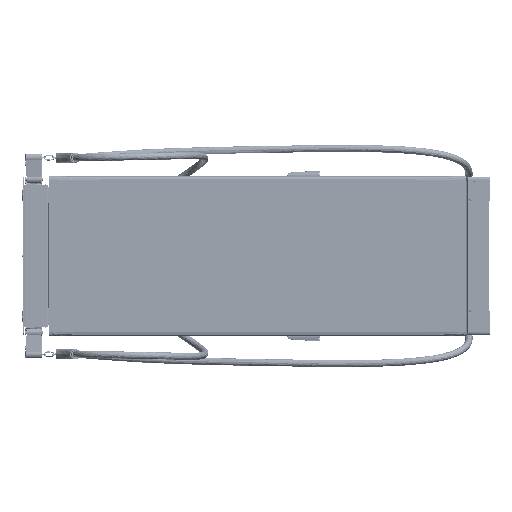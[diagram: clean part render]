
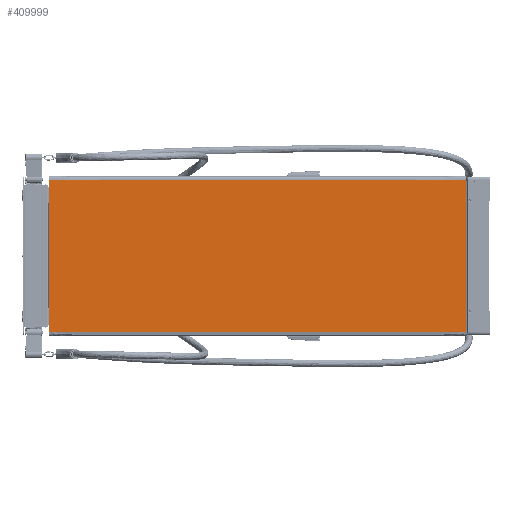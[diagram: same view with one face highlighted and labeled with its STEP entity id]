
A CAD part, left-side view. The second image highlights one B-rep face of the part: STEP entity #409999.
In plain terms, the highlighted planar face has unit normal (-1, 0, 0).
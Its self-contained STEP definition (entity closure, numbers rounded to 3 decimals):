
#406125=DIRECTION('',(0.,0.,-1.));
#406126=VECTOR('',#406125,2.);
#406127=CARTESIAN_POINT('',(-391.5,111.8,369.5));
#406128=LINE('',#406127,#406126);
#406132=DIRECTION('',(0.,0.,1.));
#406133=VECTOR('',#406132,2.);
#406134=CARTESIAN_POINT('',(-391.5,111.8,-369.5));
#406135=LINE('',#406134,#406133);
#406139=DIRECTION('',(0.,1.,0.));
#406140=VECTOR('',#406139,2036.4);
#406141=CARTESIAN_POINT('',(-391.5,111.8,-369.5));
#406142=LINE('',#406141,#406140);
#406146=DIRECTION('',(0.,0.,1.));
#406147=VECTOR('',#406146,2.);
#406148=CARTESIAN_POINT('',(-391.5,2148.2,-369.5));
#406149=LINE('',#406148,#406147);
#406153=DIRECTION('',(0.,0.,-1.));
#406154=VECTOR('',#406153,2.);
#406155=CARTESIAN_POINT('',(-391.5,2148.2,369.5));
#406156=LINE('',#406155,#406154);
#406174=DIRECTION('',(0.,1.,0.));
#406175=VECTOR('',#406174,2036.4);
#406176=CARTESIAN_POINT('',(-391.5,111.8,369.5));
#406177=LINE('',#406176,#406175);
#406237=DIRECTION('',(0.,0.,1.));
#406238=VECTOR('',#406237,735.);
#406239=CARTESIAN_POINT('',(-391.5,2148.2,-367.5));
#406240=LINE('',#406239,#406238);
#406328=DIRECTION('',(0.,0.,-1.));
#406329=VECTOR('',#406328,735.);
#406330=CARTESIAN_POINT('',(-391.5,111.8,367.5));
#406331=LINE('',#406330,#406329);
#409445=CARTESIAN_POINT('',(-391.5,2148.2,369.5));
#409446=CARTESIAN_POINT('',(-391.5,2148.2,367.5));
#409447=VERTEX_POINT('',#409445);
#409448=VERTEX_POINT('',#409446);
#409453=CARTESIAN_POINT('',(-391.5,2148.2,-369.5));
#409454=CARTESIAN_POINT('',(-391.5,2148.2,-367.5));
#409455=VERTEX_POINT('',#409453);
#409456=VERTEX_POINT('',#409454);
#409469=CARTESIAN_POINT('',(-391.5,111.8,-369.5));
#409470=CARTESIAN_POINT('',(-391.5,111.8,-367.5));
#409471=VERTEX_POINT('',#409469);
#409472=VERTEX_POINT('',#409470);
#409477=CARTESIAN_POINT('',(-391.5,111.8,369.5));
#409478=CARTESIAN_POINT('',(-391.5,111.8,367.5));
#409479=VERTEX_POINT('',#409477);
#409480=VERTEX_POINT('',#409478);
#409976=CARTESIAN_POINT('',(-391.5,110.,-369.5));
#409977=DIRECTION('',(-1.,0.,0.));
#409978=DIRECTION('',(0.,0.,1.));
#409979=AXIS2_PLACEMENT_3D('',#409976,#409977,#409978);
#409980=PLANE('',#409979);
#409982=ORIENTED_EDGE('',*,*,#409981,.T.);
#409984=ORIENTED_EDGE('',*,*,#409983,.T.);
#409986=ORIENTED_EDGE('',*,*,#409985,.F.);
#409988=ORIENTED_EDGE('',*,*,#409987,.T.);
#409990=ORIENTED_EDGE('',*,*,#409989,.T.);
#409992=ORIENTED_EDGE('',*,*,#409991,.T.);
#409994=ORIENTED_EDGE('',*,*,#409993,.F.);
#409996=ORIENTED_EDGE('',*,*,#409995,.F.);
#409997=EDGE_LOOP('',(#409982,#409984,#409986,#409988,#409990,#409992,#409994,
#409996));
#409998=FACE_OUTER_BOUND('',#409997,.F.);
#409999=ADVANCED_FACE('',(#409998),#409980,.T.);
#409981=EDGE_CURVE('',#409479,#409480,#406128,.T.);
#409983=EDGE_CURVE('',#409480,#409472,#406331,.T.);
#409985=EDGE_CURVE('',#409471,#409472,#406135,.T.);
#409987=EDGE_CURVE('',#409471,#409455,#406142,.T.);
#409989=EDGE_CURVE('',#409455,#409456,#406149,.T.);
#409991=EDGE_CURVE('',#409456,#409448,#406240,.T.);
#409993=EDGE_CURVE('',#409447,#409448,#406156,.T.);
#409995=EDGE_CURVE('',#409479,#409447,#406177,.T.);
